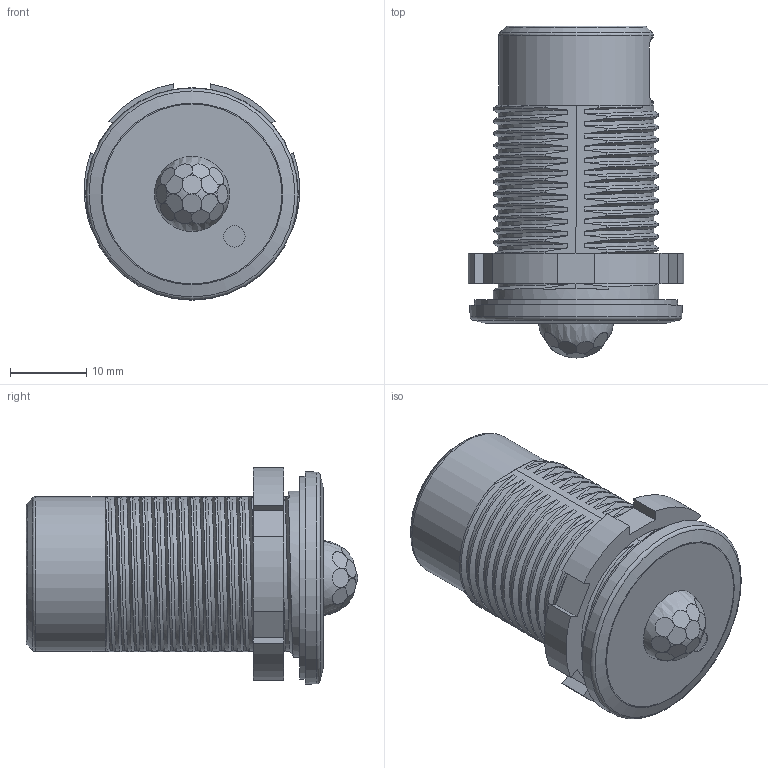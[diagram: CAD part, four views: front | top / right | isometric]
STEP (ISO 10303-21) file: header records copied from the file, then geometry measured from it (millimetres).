
FILE_DESCRIPTION (( 'STEP AP203' ), '1' );
FILE_NAME ('9C1-4549606-000-00.STP', '2025-08-12T12:42:34', ( '' ), ( '' ), 'SwSTEP 2.0', 'SolidWorks 2023', '' );
FILE_SCHEMA (( 'CONFIG_CONTROL_DESIGN' ));
Length unit declared in the file: millimetre
Products named in the file (1): 9C1-4549606-000-00
Bounding box: 28.33 x 43.65 x 28.47 mm (x, y, z)
Volume: 14671.7 mm3; surface area: 5671 mm2
Topology: 2 solids, 2 shells, 300 faces, 896 edges, 607 vertices
Faces by surface type: plane 113, cylinder 82, bspline 81, sphere 12, cone 10, torus 2
Full cylindrical faces by diameter (mm): 20.36 x1, 21.8 x1, 22.6 x1, 26.7 x1
Entity records: 23929 total; most frequent: CARTESIAN_POINT 17057, ORIENTED_EDGE 1760, EDGE_CURVE 880, DIRECTION 853, VERTEX_POINT 603, B_SPLINE_CURVE_WITH_KNOTS 499, LINE 323, VECTOR 323
